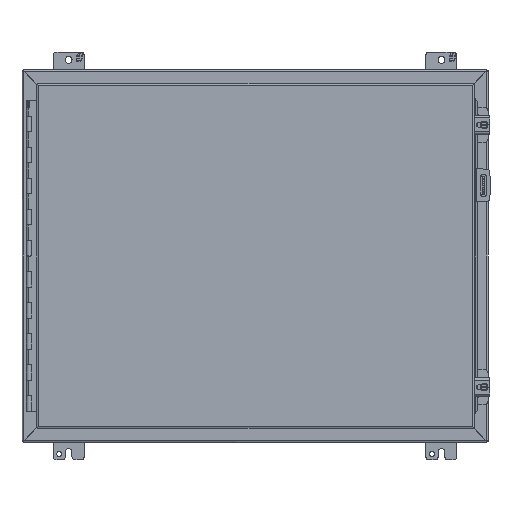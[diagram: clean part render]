
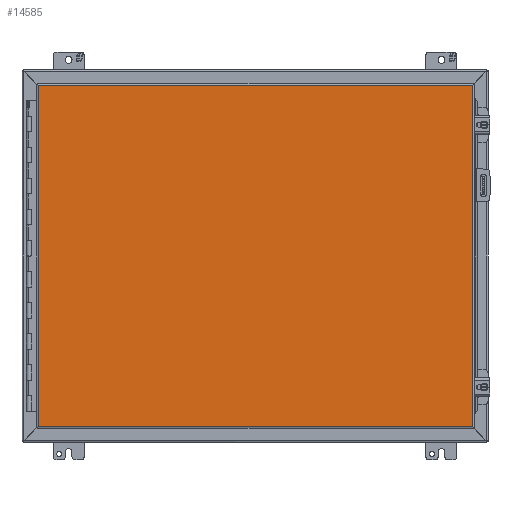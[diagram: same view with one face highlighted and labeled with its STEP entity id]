
A CAD part, front view. The second image highlights one B-rep face of the part: STEP entity #14585.
In plain terms, the highlighted planar face has unit normal (0, -1, 0).
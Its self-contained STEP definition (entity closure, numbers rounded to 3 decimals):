
#1467=LINE('',#22994,#2916);
#1468=LINE('',#22997,#2917);
#1469=LINE('',#22999,#2918);
#1470=LINE('',#23001,#2919);
#2916=VECTOR('',#18769,1000.);
#2917=VECTOR('',#18770,1000.);
#2918=VECTOR('',#18771,1000.);
#2919=VECTOR('',#18772,1000.);
#5499=ORIENTED_EDGE('',*,*,#8901,.T.);
#5500=ORIENTED_EDGE('',*,*,#8902,.T.);
#5501=ORIENTED_EDGE('',*,*,#8903,.T.);
#5502=ORIENTED_EDGE('',*,*,#8904,.T.);
#8901=EDGE_CURVE('',#10741,#10742,#1467,.T.);
#8902=EDGE_CURVE('',#10742,#10743,#1468,.T.);
#8903=EDGE_CURVE('',#10743,#10744,#1469,.T.);
#8904=EDGE_CURVE('',#10744,#10741,#1470,.T.);
#10741=VERTEX_POINT('',#22995);
#10742=VERTEX_POINT('',#22996);
#10743=VERTEX_POINT('',#22998);
#10744=VERTEX_POINT('',#23000);
#12158=EDGE_LOOP('',(#5499,#5500,#5501,#5502));
#13115=FACE_BOUND('',#12158,.T.);
#13906=PLANE('',#16325);
#14585=ADVANCED_FACE('',(#13115),#13906,.T.);
#16325=AXIS2_PLACEMENT_3D('',#22993,#18767,#18768);
#18767=DIRECTION('',(0.,-1.,0.));
#18768=DIRECTION('',(0.,0.,-1.));
#18769=DIRECTION('',(0.,0.,-1.));
#18770=DIRECTION('',(1.,0.,0.));
#18771=DIRECTION('',(0.,0.,1.));
#18772=DIRECTION('',(-1.,0.,0.));
#22993=CARTESIAN_POINT('',(-355.244,0.,-279.26));
#22994=CARTESIAN_POINT('',(-355.244,0.,279.26));
#22995=CARTESIAN_POINT('',(-355.244,0.,279.26));
#22996=CARTESIAN_POINT('',(-355.244,0.,-279.26));
#22997=CARTESIAN_POINT('',(-355.244,0.,-279.26));
#22998=CARTESIAN_POINT('',(355.244,0.,-279.26));
#22999=CARTESIAN_POINT('',(355.244,0.,-279.26));
#23000=CARTESIAN_POINT('',(355.244,0.,279.26));
#23001=CARTESIAN_POINT('',(355.244,0.,279.26));
